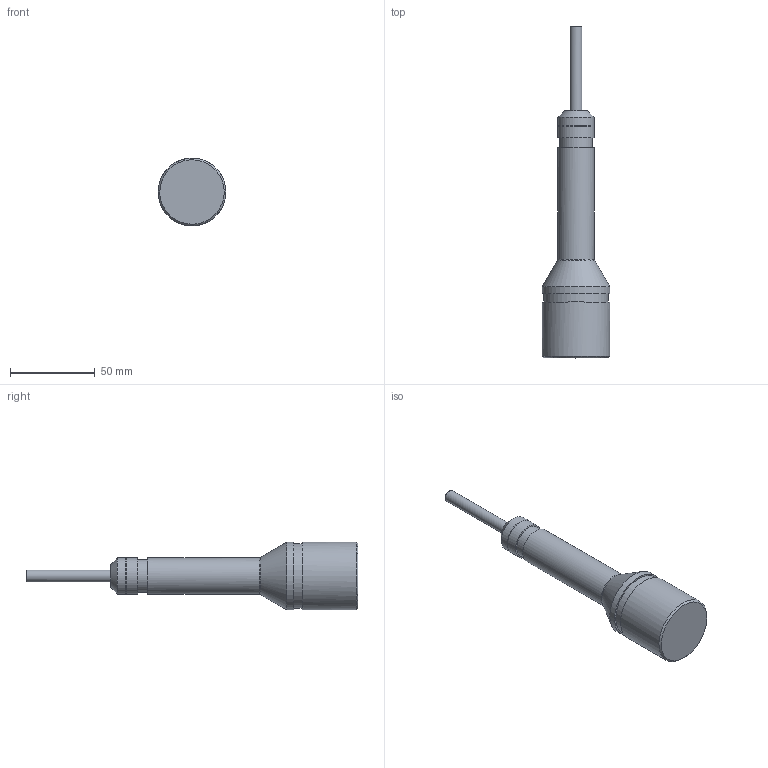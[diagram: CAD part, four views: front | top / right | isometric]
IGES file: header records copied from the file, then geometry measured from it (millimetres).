
Global section: file name: NCK; native system: Autodesk Inventor 2015; preprocessor: unknown; author: aantal; date: 20150708.083617; units: millimetre
Bounding box: 40 x 196 x 39.96 mm (x, y, z)
Volume: 97335.3 mm3; surface area: 15914.3 mm2
Topology: 1 solids, 1 shells, 23 faces, 54 edges, 40 vertices
Faces by surface type: bspline 23
